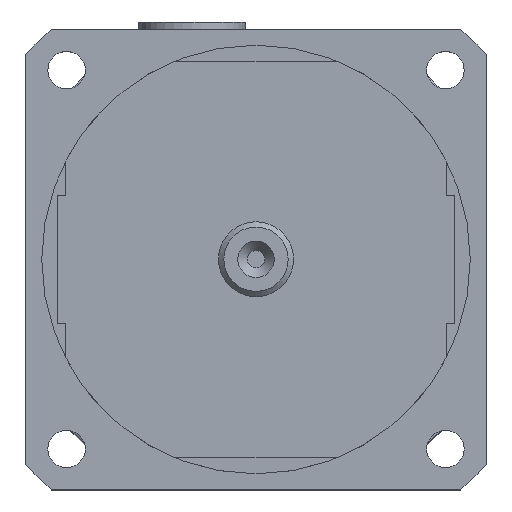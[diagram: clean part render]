
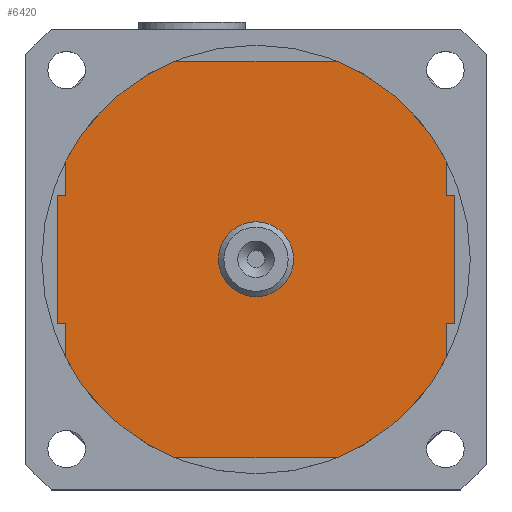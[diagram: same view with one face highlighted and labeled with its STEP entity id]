
A CAD part, top view. The second image highlights one B-rep face of the part: STEP entity #6420.
In plain terms, the highlighted planar face has unit normal (0, 0, 1).
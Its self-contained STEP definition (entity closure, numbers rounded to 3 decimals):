
#1769=LINE('',#10058,#7624);
#1773=LINE('',#10067,#7628);
#1777=LINE('',#10076,#7632);
#1780=LINE('',#10082,#7635);
#1783=LINE('',#10088,#7638);
#1787=LINE('',#10097,#7642);
#1789=LINE('',#10102,#7644);
#1790=LINE('',#10106,#7645);
#1791=LINE('',#10108,#7646);
#1792=LINE('',#10110,#7647);
#1793=LINE('',#10112,#7648);
#1794=LINE('',#10115,#7649);
#1795=LINE('',#10119,#7650);
#1796=LINE('',#10121,#7651);
#1797=LINE('',#10123,#7652);
#1798=LINE('',#10125,#7653);
#2388=VERTEX_POINT('',#10059);
#2389=VERTEX_POINT('',#10060);
#2392=VERTEX_POINT('',#10068);
#2393=VERTEX_POINT('',#10069);
#2396=VERTEX_POINT('',#10077);
#2398=VERTEX_POINT('',#10083);
#2400=VERTEX_POINT('',#10089);
#2401=VERTEX_POINT('',#10090);
#2404=VERTEX_POINT('',#10101);
#2405=VERTEX_POINT('',#10103);
#2406=VERTEX_POINT('',#10105);
#2407=VERTEX_POINT('',#10107);
#2408=VERTEX_POINT('',#10109);
#2409=VERTEX_POINT('',#10111);
#2410=VERTEX_POINT('',#10114);
#2411=VERTEX_POINT('',#10116);
#2412=VERTEX_POINT('',#10118);
#2413=VERTEX_POINT('',#10120);
#2414=VERTEX_POINT('',#10122);
#2415=VERTEX_POINT('',#10124);
#2836=CIRCLE('',#6984,40.);
#2837=CIRCLE('',#6985,40.);
#2838=CIRCLE('',#6986,40.);
#2839=CIRCLE('',#6987,40.);
#3318=EDGE_CURVE('',#2388,#2389,#1769,.T.);
#3322=EDGE_CURVE('',#2392,#2393,#1773,.T.);
#3326=EDGE_CURVE('',#2393,#2396,#1777,.T.);
#3329=EDGE_CURVE('',#2396,#2398,#1780,.T.);
#3332=EDGE_CURVE('',#2400,#2401,#1783,.T.);
#3336=EDGE_CURVE('',#2401,#2388,#1787,.T.);
#3338=EDGE_CURVE('',#2404,#2400,#2836,.T.);
#3339=EDGE_CURVE('',#2405,#2404,#1789,.T.);
#3340=EDGE_CURVE('',#2406,#2405,#2837,.T.);
#3341=EDGE_CURVE('',#2407,#2406,#1790,.T.);
#3342=EDGE_CURVE('',#2408,#2407,#1791,.T.);
#3343=EDGE_CURVE('',#2409,#2408,#1792,.T.);
#3344=EDGE_CURVE('',#2398,#2409,#1793,.T.);
#3345=EDGE_CURVE('',#2410,#2392,#2838,.T.);
#3346=EDGE_CURVE('',#2411,#2410,#1794,.T.);
#3347=EDGE_CURVE('',#2412,#2411,#2839,.T.);
#3348=EDGE_CURVE('',#2413,#2412,#1795,.T.);
#3349=EDGE_CURVE('',#2414,#2413,#1796,.T.);
#3350=EDGE_CURVE('',#2415,#2414,#1797,.T.);
#3351=EDGE_CURVE('',#2389,#2415,#1798,.T.);
#4460=ORIENTED_EDGE('',*,*,#3318,.F.);
#4461=ORIENTED_EDGE('',*,*,#3336,.F.);
#4462=ORIENTED_EDGE('',*,*,#3332,.F.);
#4463=ORIENTED_EDGE('',*,*,#3338,.F.);
#4464=ORIENTED_EDGE('',*,*,#3339,.F.);
#4465=ORIENTED_EDGE('',*,*,#3340,.F.);
#4466=ORIENTED_EDGE('',*,*,#3341,.F.);
#4467=ORIENTED_EDGE('',*,*,#3342,.F.);
#4468=ORIENTED_EDGE('',*,*,#3343,.F.);
#4469=ORIENTED_EDGE('',*,*,#3344,.F.);
#4470=ORIENTED_EDGE('',*,*,#3329,.F.);
#4471=ORIENTED_EDGE('',*,*,#3326,.F.);
#4472=ORIENTED_EDGE('',*,*,#3322,.F.);
#4473=ORIENTED_EDGE('',*,*,#3345,.F.);
#4474=ORIENTED_EDGE('',*,*,#3346,.F.);
#4475=ORIENTED_EDGE('',*,*,#3347,.F.);
#4476=ORIENTED_EDGE('',*,*,#3348,.F.);
#4477=ORIENTED_EDGE('',*,*,#3349,.F.);
#4478=ORIENTED_EDGE('',*,*,#3350,.F.);
#4479=ORIENTED_EDGE('',*,*,#3351,.F.);
#5596=EDGE_LOOP('',(#4460,#4461,#4462,#4463,#4464,#4465,#4466,#4467,#4468,
#4469,#4470,#4471,#4472,#4473,#4474,#4475,#4476,#4477,#4478,#4479));
#6046=FACE_BOUND('',#5596,.T.);
#6420=ADVANCED_FACE('',(#6046),#7897,.T.);
#6983=AXIS2_PLACEMENT_3D('',#10099,#12942,$);
#6984=AXIS2_PLACEMENT_3D('',#10100,#12943,#12944);
#6985=AXIS2_PLACEMENT_3D('',#10104,#12946,#12947);
#6986=AXIS2_PLACEMENT_3D('',#10113,#12952,#12953);
#6987=AXIS2_PLACEMENT_3D('',#10117,#12955,#12956);
#7624=VECTOR('',#12917,1.);
#7628=VECTOR('',#12922,1.);
#7632=VECTOR('',#12927,1.);
#7635=VECTOR('',#12931,1.);
#7638=VECTOR('',#12935,1.);
#7642=VECTOR('',#12940,1.);
#7644=VECTOR('',#12945,1.);
#7645=VECTOR('',#12948,1.);
#7646=VECTOR('',#12949,1.);
#7647=VECTOR('',#12950,1.);
#7648=VECTOR('',#12951,1.);
#7649=VECTOR('',#12954,1.);
#7650=VECTOR('',#12957,1.);
#7651=VECTOR('',#12958,1.);
#7652=VECTOR('',#12959,1.);
#7653=VECTOR('',#12960,1.);
#7897=PLANE('',#6983);
#10058=CARTESIAN_POINT('',(35.5,12.,102.));
#10059=CARTESIAN_POINT('',(35.5,12.,102.));
#10060=CARTESIAN_POINT('',(37.,12.,102.));
#10067=CARTESIAN_POINT('',(-35.721,-18.,102.));
#10068=CARTESIAN_POINT('',(-35.721,-18.,102.));
#10069=CARTESIAN_POINT('',(-35.5,-18.,102.));
#10076=CARTESIAN_POINT('',(-35.5,-18.,102.));
#10077=CARTESIAN_POINT('',(-35.5,-12.,102.));
#10082=CARTESIAN_POINT('',(-35.5,-12.,102.));
#10083=CARTESIAN_POINT('',(-37.,-12.,102.));
#10088=CARTESIAN_POINT('',(35.721,18.,102.));
#10089=CARTESIAN_POINT('',(35.721,18.,102.));
#10090=CARTESIAN_POINT('',(35.5,18.,102.));
#10097=CARTESIAN_POINT('',(35.5,18.,102.));
#10099=CARTESIAN_POINT('',(0.,0.,102.));
#10100=CARTESIAN_POINT('',(0.,0.,102.));
#10101=CARTESIAN_POINT('',(15.199,37.,102.));
#10102=CARTESIAN_POINT('',(-15.199,37.,102.));
#10103=CARTESIAN_POINT('',(-15.199,37.,102.));
#10104=CARTESIAN_POINT('',(0.,0.,102.));
#10105=CARTESIAN_POINT('',(-35.721,18.,102.));
#10106=CARTESIAN_POINT('',(-35.5,18.,102.));
#10107=CARTESIAN_POINT('',(-35.5,18.,102.));
#10108=CARTESIAN_POINT('',(-35.5,12.,102.));
#10109=CARTESIAN_POINT('',(-35.5,12.,102.));
#10110=CARTESIAN_POINT('',(-37.,12.,102.));
#10111=CARTESIAN_POINT('',(-37.,12.,102.));
#10112=CARTESIAN_POINT('',(-37.,-12.,102.));
#10113=CARTESIAN_POINT('',(0.,0.,102.));
#10114=CARTESIAN_POINT('',(-15.199,-37.,102.));
#10115=CARTESIAN_POINT('',(15.199,-37.,102.));
#10116=CARTESIAN_POINT('',(15.199,-37.,102.));
#10117=CARTESIAN_POINT('',(0.,0.,102.));
#10118=CARTESIAN_POINT('',(35.721,-18.,102.));
#10119=CARTESIAN_POINT('',(35.5,-18.,102.));
#10120=CARTESIAN_POINT('',(35.5,-18.,102.));
#10121=CARTESIAN_POINT('',(35.5,-12.,102.));
#10122=CARTESIAN_POINT('',(35.5,-12.,102.));
#10123=CARTESIAN_POINT('',(37.,-12.,102.));
#10124=CARTESIAN_POINT('',(37.,-12.,102.));
#10125=CARTESIAN_POINT('',(37.,12.,102.));
#12917=DIRECTION('',(1.,0.,0.));
#12922=DIRECTION('',(1.,0.,0.));
#12927=DIRECTION('',(0.,1.,0.));
#12931=DIRECTION('',(-1.,0.,0.));
#12935=DIRECTION('',(-1.,0.,0.));
#12940=DIRECTION('',(0.,-1.,0.));
#12942=DIRECTION('',(0.,0.,1.));
#12943=DIRECTION('',(0.,0.,-1.));
#12944=DIRECTION('',(40.,0.,0.));
#12945=DIRECTION('',(1.,0.,0.));
#12946=DIRECTION('',(0.,0.,-1.));
#12947=DIRECTION('',(40.,0.,0.));
#12948=DIRECTION('',(-1.,0.,0.));
#12949=DIRECTION('',(0.,1.,0.));
#12950=DIRECTION('',(1.,0.,0.));
#12951=DIRECTION('',(0.,1.,0.));
#12952=DIRECTION('',(0.,0.,-1.));
#12953=DIRECTION('',(40.,0.,0.));
#12954=DIRECTION('',(-1.,0.,0.));
#12955=DIRECTION('',(0.,0.,-1.));
#12956=DIRECTION('',(40.,0.,0.));
#12957=DIRECTION('',(1.,0.,0.));
#12958=DIRECTION('',(0.,-1.,0.));
#12959=DIRECTION('',(-1.,0.,0.));
#12960=DIRECTION('',(0.,-1.,0.));
